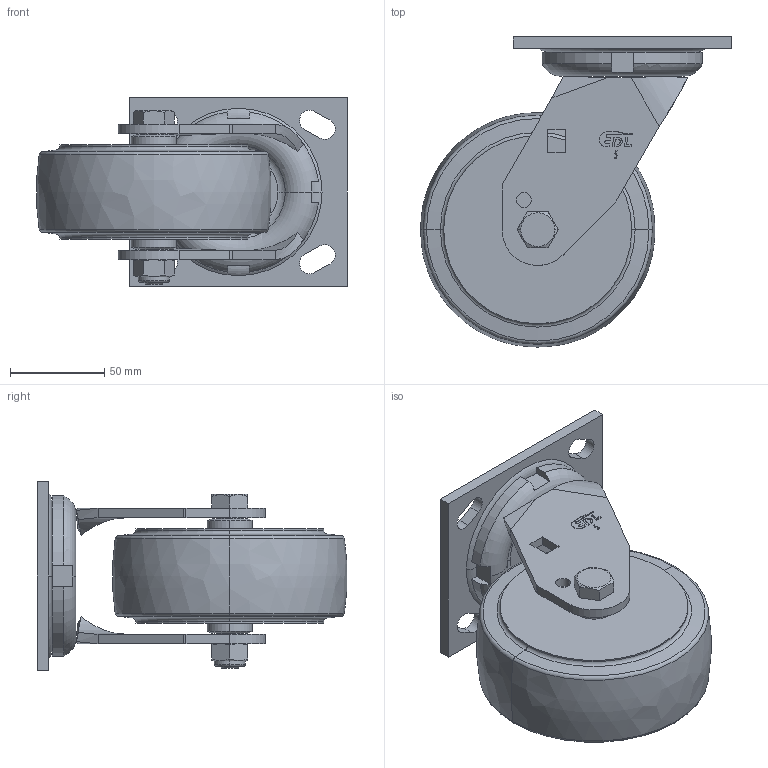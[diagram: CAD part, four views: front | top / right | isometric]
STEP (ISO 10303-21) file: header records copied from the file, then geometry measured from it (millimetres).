
FILE_DESCRIPTION((''),'2;1');
FILE_NAME('73115-735-86_ASM','2020-11-27T',('lenovo'),(''),'PRO/ENGINEER BY PARAMETRIC TECHNOLOGY CORPORATION, 2010280','PRO/ENGINEER BY PARAMETRIC TECHNOLOGY CORPORATION, 2010280','');
FILE_SCHEMA(('CONFIG_CONTROL_DESIGN'));
Length unit declared in the file: millimetre
Products named in the file (8): 7310-201; 7310-211; 7315-353; 7315-311_ASM; 735-86; 7010-33; 7010-34; 73115-735-86_ASM
Assembly tree (7 placements, depth 3):
  73115-735-86_ASM
    7310-201
    7315-311_ASM
      7310-211
      7315-353
    735-86
    7010-33
    7010-34
Bounding box: 165.33 x 164.83 x 100 mm (x, y, z)
Volume: 772302.2 mm3; surface area: 114799 mm2
Topology: 7 solids, 7 shells, 297 faces, 716 edges, 448 vertices
Faces by surface type: plane 144, cylinder 67, torus 54, cone 22, bspline 10
Entity records: 9373 total; most frequent: CARTESIAN_POINT 2147, DIRECTION 1526, ORIENTED_EDGE 1432, EDGE_CURVE 716, AXIS2_PLACEMENT_3D 560, VERTEX_POINT 448, VECTOR 406, LINE 406
